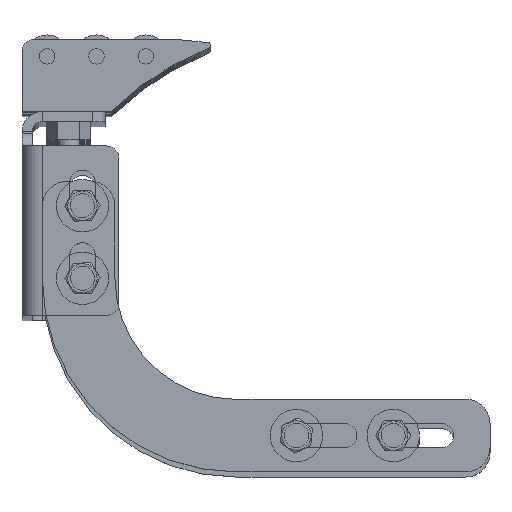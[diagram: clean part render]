
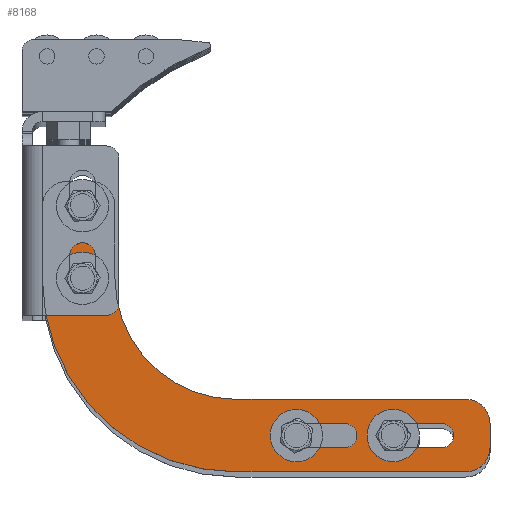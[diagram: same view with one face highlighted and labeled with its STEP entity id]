
A CAD part, top view. The second image highlights one B-rep face of the part: STEP entity #8168.
In plain terms, the highlighted planar face has unit normal (0, 0, 1) as drawn and (0, 0, -1) by its records, which use the part's own axes.
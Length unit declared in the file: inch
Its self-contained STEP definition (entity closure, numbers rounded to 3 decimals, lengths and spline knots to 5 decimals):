
#7601=DIRECTION('',(0.,-1.,0.));
#7602=VECTOR('',#7601,0.75);
#7603=CARTESIAN_POINT('',(0.,2.75,-0.25));
#7604=LINE('',#7603,#7602);
#7605=CARTESIAN_POINT('',(-0.25,2.75,-0.25));
#7606=DIRECTION('',(0.,0.,-1.));
#7607=DIRECTION('',(0.,1.,0.));
#7608=AXIS2_PLACEMENT_3D('',#7605,#7606,#7607);
#7610=DIRECTION('',(1.,0.,0.));
#7611=VECTOR('',#7610,0.25);
#7612=CARTESIAN_POINT('',(-0.5,3.,-0.25));
#7613=LINE('',#7612,#7611);
#7614=CARTESIAN_POINT('',(-0.5,2.75,-0.25));
#7615=DIRECTION('',(0.,0.,-1.));
#7616=DIRECTION('',(-1.,0.,0.));
#7617=AXIS2_PLACEMENT_3D('',#7614,#7615,#7616);
#7619=DIRECTION('',(0.,1.,0.));
#7620=VECTOR('',#7619,0.75);
#7621=CARTESIAN_POINT('',(-0.75,2.,-0.25));
#7622=LINE('',#7621,#7620);
#7623=CARTESIAN_POINT('',(-2.,2.,-0.25));
#7624=DIRECTION('',(0.,0.,1.));
#7625=DIRECTION('',(0.,-1.,0.));
#7626=AXIS2_PLACEMENT_3D('',#7623,#7624,#7625);
#7628=DIRECTION('',(1.,0.,0.));
#7629=VECTOR('',#7628,2.375);
#7630=CARTESIAN_POINT('',(-4.375,0.75,-0.25));
#7631=LINE('',#7630,#7629);
#7632=CARTESIAN_POINT('',(-4.375,0.5,-0.25));
#7633=DIRECTION('',(0.,0.,-1.));
#7634=DIRECTION('',(-1.,0.,0.));
#7635=AXIS2_PLACEMENT_3D('',#7632,#7633,#7634);
#7637=DIRECTION('',(0.,1.,0.));
#7638=VECTOR('',#7637,0.25);
#7639=CARTESIAN_POINT('',(-4.625,0.25,-0.25));
#7640=LINE('',#7639,#7638);
#7641=CARTESIAN_POINT('',(-4.375,0.25,-0.25));
#7642=DIRECTION('',(0.,0.,-1.));
#7643=DIRECTION('',(0.,-1.,0.));
#7644=AXIS2_PLACEMENT_3D('',#7641,#7642,#7643);
#7646=DIRECTION('',(-1.,0.,0.));
#7647=VECTOR('',#7646,2.375);
#7648=CARTESIAN_POINT('',(-2.,0.,-0.25));
#7649=LINE('',#7648,#7647);
#7650=CARTESIAN_POINT('',(-2.,2.,-0.25));
#7651=DIRECTION('',(0.,0.,-1.));
#7652=DIRECTION('',(1.,0.,0.));
#7653=AXIS2_PLACEMENT_3D('',#7650,#7651,#7652);
#7655=CARTESIAN_POINT('',(-0.4145,2.,-0.25));
#7656=DIRECTION('',(0.,0.,1.));
#7657=DIRECTION('',(1.,0.,0.));
#7658=AXIS2_PLACEMENT_3D('',#7655,#7656,#7657);
#7660=CARTESIAN_POINT('',(-0.4145,2.,-0.25));
#7661=DIRECTION('',(0.,0.,1.));
#7662=DIRECTION('',(-1.,0.,0.));
#7663=AXIS2_PLACEMENT_3D('',#7660,#7661,#7662);
#7665=CARTESIAN_POINT('',(-0.4145,2.75,-0.25));
#7666=DIRECTION('',(0.,0.,1.));
#7667=DIRECTION('',(1.,0.,0.));
#7668=AXIS2_PLACEMENT_3D('',#7665,#7666,#7667);
#7670=CARTESIAN_POINT('',(-0.4145,2.75,-0.25));
#7671=DIRECTION('',(0.,0.,1.));
#7672=DIRECTION('',(-1.,0.,0.));
#7673=AXIS2_PLACEMENT_3D('',#7670,#7671,#7672);
#7675=CARTESIAN_POINT('',(-2.625,0.375,-0.25));
#7676=DIRECTION('',(0.,0.,1.));
#7677=DIRECTION('',(1.,0.,0.));
#7678=AXIS2_PLACEMENT_3D('',#7675,#7676,#7677);
#7680=CARTESIAN_POINT('',(-2.625,0.375,-0.25));
#7681=DIRECTION('',(0.,0.,1.));
#7682=DIRECTION('',(0.,-1.,0.));
#7683=AXIS2_PLACEMENT_3D('',#7680,#7681,#7682);
#7685=CARTESIAN_POINT('',(-3.125,0.375,-0.25));
#7686=DIRECTION('',(0.,0.,1.));
#7687=DIRECTION('',(-1.,0.,0.));
#7688=AXIS2_PLACEMENT_3D('',#7685,#7686,#7687);
#7690=CARTESIAN_POINT('',(-3.125,0.375,-0.25));
#7691=DIRECTION('',(0.,0.,1.));
#7692=DIRECTION('',(0.,1.,0.));
#7693=AXIS2_PLACEMENT_3D('',#7690,#7691,#7692);
#7695=CARTESIAN_POINT('',(-3.625,0.375,-0.25));
#7696=DIRECTION('',(0.,0.,1.));
#7697=DIRECTION('',(1.,0.,0.));
#7698=AXIS2_PLACEMENT_3D('',#7695,#7696,#7697);
#7700=CARTESIAN_POINT('',(-3.625,0.375,-0.25));
#7701=DIRECTION('',(0.,0.,1.));
#7702=DIRECTION('',(0.,-1.,0.));
#7703=AXIS2_PLACEMENT_3D('',#7700,#7701,#7702);
#7705=CARTESIAN_POINT('',(-4.125,0.375,-0.25));
#7706=DIRECTION('',(0.,0.,1.));
#7707=DIRECTION('',(-1.,0.,0.));
#7708=AXIS2_PLACEMENT_3D('',#7705,#7706,#7707);
#7710=CARTESIAN_POINT('',(-4.125,0.375,-0.25));
#7711=DIRECTION('',(0.,0.,1.));
#7712=DIRECTION('',(0.,1.,0.));
#7713=AXIS2_PLACEMENT_3D('',#7710,#7711,#7712);
#7909=DIRECTION('',(1.,0.,0.));
#7910=VECTOR('',#7909,0.5);
#7911=CARTESIAN_POINT('',(-3.125,0.5,-0.25));
#7912=LINE('',#7911,#7910);
#7925=DIRECTION('',(-1.,0.,0.));
#7926=VECTOR('',#7925,0.5);
#7927=CARTESIAN_POINT('',(-2.625,0.25,-0.25));
#7928=LINE('',#7927,#7926);
#7937=DIRECTION('',(1.,0.,0.));
#7938=VECTOR('',#7937,0.5);
#7939=CARTESIAN_POINT('',(-4.125,0.5,-0.25));
#7940=LINE('',#7939,#7938);
#7953=DIRECTION('',(-1.,0.,0.));
#7954=VECTOR('',#7953,0.5);
#7955=CARTESIAN_POINT('',(-3.625,0.25,-0.25));
#7956=LINE('',#7955,#7954);
#7961=CARTESIAN_POINT('',(-4.375,0.,-0.25));
#7963=VERTEX_POINT('',#7961);
#7965=CARTESIAN_POINT('',(-4.625,0.5,-0.25));
#7967=VERTEX_POINT('',#7965);
#7969=CARTESIAN_POINT('',(-2.5,0.375,-0.25));
#7970=CARTESIAN_POINT('',(-2.625,0.5,-0.25));
#7971=VERTEX_POINT('',#7969);
#7972=VERTEX_POINT('',#7970);
#7973=CARTESIAN_POINT('',(-3.125,0.5,-0.25));
#7975=VERTEX_POINT('',#7973);
#7985=CARTESIAN_POINT('',(-3.25,0.375,-0.25));
#7986=VERTEX_POINT('',#7985);
#7987=CARTESIAN_POINT('',(-3.125,0.25,-0.25));
#7988=VERTEX_POINT('',#7987);
#7989=CARTESIAN_POINT('',(-2.,0.,-0.25));
#7990=VERTEX_POINT('',#7989);
#7991=CARTESIAN_POINT('',(-3.5,0.375,-0.25));
#7992=CARTESIAN_POINT('',(-3.625,0.5,-0.25));
#7993=VERTEX_POINT('',#7991);
#7994=VERTEX_POINT('',#7992);
#7998=CARTESIAN_POINT('',(-0.51293,2.,-0.25));
#8000=VERTEX_POINT('',#7998);
#8001=CARTESIAN_POINT('',(-4.125,0.5,-0.25));
#8002=VERTEX_POINT('',#8001);
#8003=CARTESIAN_POINT('',(-0.25,3.,-0.25));
#8005=VERTEX_POINT('',#8003);
#8007=CARTESIAN_POINT('',(-4.25,0.375,-0.25));
#8008=VERTEX_POINT('',#8007);
#8009=CARTESIAN_POINT('',(-4.125,0.25,-0.25));
#8010=VERTEX_POINT('',#8009);
#8012=CARTESIAN_POINT('',(0.,2.75,-0.25));
#8014=VERTEX_POINT('',#8012);
#8017=CARTESIAN_POINT('',(-0.31607,2.75,-0.25));
#8018=CARTESIAN_POINT('',(-0.51293,2.75,-0.25));
#8019=VERTEX_POINT('',#8017);
#8020=VERTEX_POINT('',#8018);
#8021=CARTESIAN_POINT('',(-3.625,0.25,-0.25));
#8022=VERTEX_POINT('',#8021);
#8029=CARTESIAN_POINT('',(-0.75,2.,-0.25));
#8030=VERTEX_POINT('',#8029);
#8031=CARTESIAN_POINT('',(-2.625,0.25,-0.25));
#8032=VERTEX_POINT('',#8031);
#8033=CARTESIAN_POINT('',(-0.75,2.75,-0.25));
#8034=CARTESIAN_POINT('',(-0.5,3.,-0.25));
#8035=VERTEX_POINT('',#8033);
#8036=VERTEX_POINT('',#8034);
#8041=CARTESIAN_POINT('',(0.,2.,-0.25));
#8043=VERTEX_POINT('',#8041);
#8049=CARTESIAN_POINT('',(-4.625,0.25,-0.25));
#8050=VERTEX_POINT('',#8049);
#8051=CARTESIAN_POINT('',(-4.375,0.75,-0.25));
#8052=VERTEX_POINT('',#8051);
#8054=CARTESIAN_POINT('',(-0.31607,2.,-0.25));
#8056=VERTEX_POINT('',#8054);
#8063=CARTESIAN_POINT('',(-2.,0.75,-0.25));
#8064=VERTEX_POINT('',#8063);
#8099=CARTESIAN_POINT('',(0.,0.,-0.25));
#8100=DIRECTION('',(0.,0.,1.));
#8101=DIRECTION('',(1.,0.,0.));
#8102=AXIS2_PLACEMENT_3D('',#8099,#8100,#8101);
#8103=PLANE('',#8102);
#8105=ORIENTED_EDGE('',*,*,#8104,.F.);
#8107=ORIENTED_EDGE('',*,*,#8106,.F.);
#8109=ORIENTED_EDGE('',*,*,#8108,.F.);
#8111=ORIENTED_EDGE('',*,*,#8110,.F.);
#8113=ORIENTED_EDGE('',*,*,#8112,.F.);
#8115=ORIENTED_EDGE('',*,*,#8114,.F.);
#8117=ORIENTED_EDGE('',*,*,#8116,.F.);
#8119=ORIENTED_EDGE('',*,*,#8118,.F.);
#8121=ORIENTED_EDGE('',*,*,#8120,.F.);
#8123=ORIENTED_EDGE('',*,*,#8122,.F.);
#8125=ORIENTED_EDGE('',*,*,#8124,.F.);
#8127=ORIENTED_EDGE('',*,*,#8126,.F.);
#8128=EDGE_LOOP('',(#8105,#8107,#8109,#8111,#8113,#8115,#8117,#8119,#8121,#8123,
#8125,#8127));
#8129=FACE_OUTER_BOUND('',#8128,.F.);
#8130=ORIENTED_EDGE('',*,*,#8080,.F.);
#8131=ORIENTED_EDGE('',*,*,#8090,.F.);
#8132=EDGE_LOOP('',(#8130,#8131));
#8133=FACE_BOUND('',#8132,.F.);
#8135=ORIENTED_EDGE('',*,*,#8134,.F.);
#8137=ORIENTED_EDGE('',*,*,#8136,.F.);
#8138=EDGE_LOOP('',(#8135,#8137));
#8139=FACE_BOUND('',#8138,.F.);
#8141=ORIENTED_EDGE('',*,*,#8140,.T.);
#8143=ORIENTED_EDGE('',*,*,#8142,.F.);
#8145=ORIENTED_EDGE('',*,*,#8144,.F.);
#8147=ORIENTED_EDGE('',*,*,#8146,.T.);
#8149=ORIENTED_EDGE('',*,*,#8148,.F.);
#8151=ORIENTED_EDGE('',*,*,#8150,.F.);
#8152=EDGE_LOOP('',(#8141,#8143,#8145,#8147,#8149,#8151));
#8153=FACE_BOUND('',#8152,.F.);
#8155=ORIENTED_EDGE('',*,*,#8154,.T.);
#8157=ORIENTED_EDGE('',*,*,#8156,.F.);
#8159=ORIENTED_EDGE('',*,*,#8158,.F.);
#8161=ORIENTED_EDGE('',*,*,#8160,.T.);
#8163=ORIENTED_EDGE('',*,*,#8162,.F.);
#8165=ORIENTED_EDGE('',*,*,#8164,.F.);
#8166=EDGE_LOOP('',(#8155,#8157,#8159,#8161,#8163,#8165));
#8167=FACE_BOUND('',#8166,.F.);
#7609=CIRCLE('',#7608,0.25);
#7618=CIRCLE('',#7617,0.25);
#7627=CIRCLE('',#7626,1.25);
#7636=CIRCLE('',#7635,0.25);
#7645=CIRCLE('',#7644,0.25);
#7654=CIRCLE('',#7653,2.);
#7659=CIRCLE('',#7658,0.09843);
#7664=CIRCLE('',#7663,0.09843);
#7669=CIRCLE('',#7668,0.09843);
#7674=CIRCLE('',#7673,0.09843);
#7679=CIRCLE('',#7678,0.125);
#7684=CIRCLE('',#7683,0.125);
#7689=CIRCLE('',#7688,0.125);
#7694=CIRCLE('',#7693,0.125);
#7699=CIRCLE('',#7698,0.125);
#7704=CIRCLE('',#7703,0.125);
#7709=CIRCLE('',#7708,0.125);
#7714=CIRCLE('',#7713,0.125);
#8080=EDGE_CURVE('',#8056,#8000,#7659,.T.);
#8090=EDGE_CURVE('',#8000,#8056,#7664,.T.);
#8104=EDGE_CURVE('',#8014,#8043,#7604,.T.);
#8106=EDGE_CURVE('',#8005,#8014,#7609,.T.);
#8108=EDGE_CURVE('',#8036,#8005,#7613,.T.);
#8110=EDGE_CURVE('',#8035,#8036,#7618,.T.);
#8112=EDGE_CURVE('',#8030,#8035,#7622,.T.);
#8114=EDGE_CURVE('',#8064,#8030,#7627,.T.);
#8116=EDGE_CURVE('',#8052,#8064,#7631,.T.);
#8118=EDGE_CURVE('',#7967,#8052,#7636,.T.);
#8120=EDGE_CURVE('',#8050,#7967,#7640,.T.);
#8122=EDGE_CURVE('',#7963,#8050,#7645,.T.);
#8124=EDGE_CURVE('',#7990,#7963,#7649,.T.);
#8126=EDGE_CURVE('',#8043,#7990,#7654,.T.);
#8134=EDGE_CURVE('',#8019,#8020,#7669,.T.);
#8136=EDGE_CURVE('',#8020,#8019,#7674,.T.);
#8140=EDGE_CURVE('',#7975,#7972,#7912,.T.);
#8142=EDGE_CURVE('',#7971,#7972,#7679,.T.);
#8144=EDGE_CURVE('',#8032,#7971,#7684,.T.);
#8146=EDGE_CURVE('',#8032,#7988,#7928,.T.);
#8148=EDGE_CURVE('',#7986,#7988,#7689,.T.);
#8150=EDGE_CURVE('',#7975,#7986,#7694,.T.);
#8154=EDGE_CURVE('',#8002,#7994,#7940,.T.);
#8156=EDGE_CURVE('',#7993,#7994,#7699,.T.);
#8158=EDGE_CURVE('',#8022,#7993,#7704,.T.);
#8160=EDGE_CURVE('',#8022,#8010,#7956,.T.);
#8162=EDGE_CURVE('',#8008,#8010,#7709,.T.);
#8164=EDGE_CURVE('',#8002,#8008,#7714,.T.);
#8168=ADVANCED_FACE('',(#8129,#8133,#8139,#8153,#8167),#8103,.F.);
